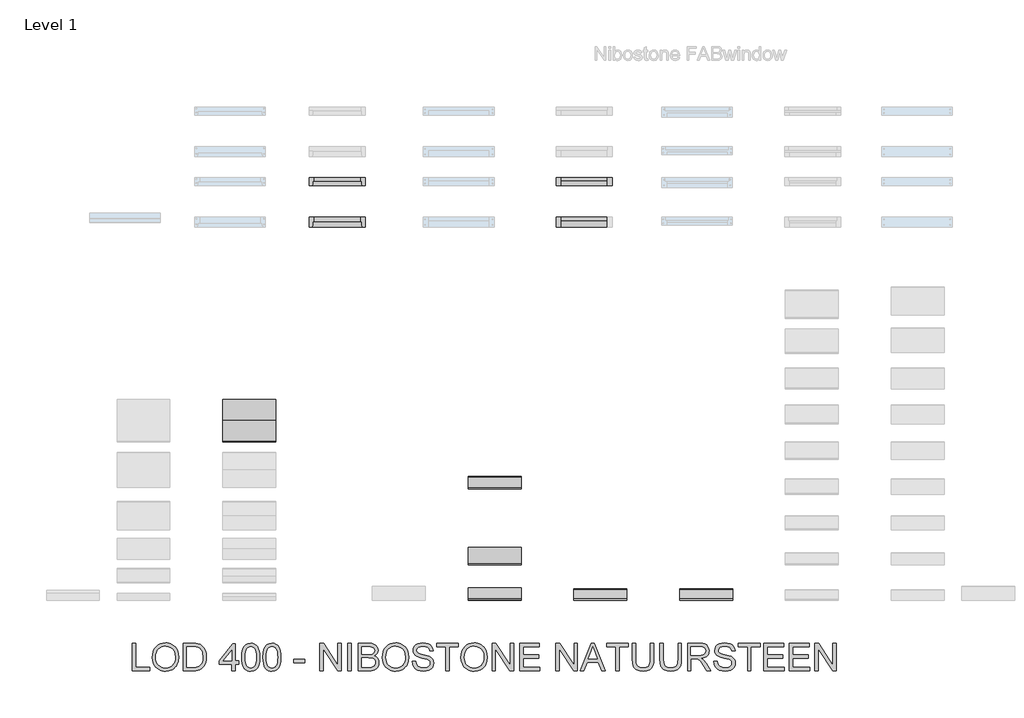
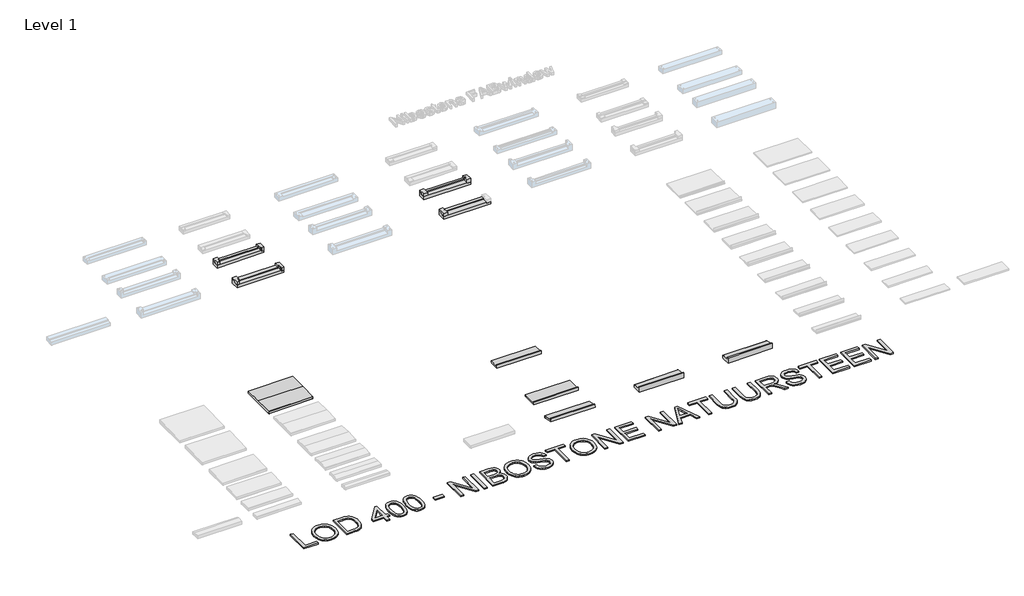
# One storey, part 2 of 4: 18 proxies.
"""IFC4 building model written with IfcOpenShell, lengths in millimetres."""

from ifc_helpers import new_model, si_unit, origin, origin_with_axes, place, context, project, spatial, polyline, outline, extrude, faceted_brep, transform, mapped, element, save
from components import proxy_160x90_mm_a9168e1c, proxy_175_mm_b3279f06, proxy_250_mm_d05ddaf7, proxy_600_mm_a40602a3, std_403fbab1, std_eb05143a

model = new_model("IFC4")

# Units and contexts
model_context = context("Model", 3, world=origin())
ifc_project = project(units=[si_unit("LENGTHUNIT", "METRE", prefix="MILLI")], contexts=[model_context])

# Site, building, storey
site = spatial("IfcSite", under=ifc_project)
building = spatial("IfcBuilding", under=site)
storey = spatial("IfcBuildingStorey", under=building, Name="Level 1", Elevation=0.0)

# Proxies
placement = place(None, origin())
proxy_160x90_mm_shape = proxy_160x90_mm_a9168e1c(model_context)
element("IfcBuildingElementProxy", 1, Name="400_35_NS_raamdorpel_160x90 : 160x90 mm", ObjectType="400_35_NS_raamdorpel_160x90 : 160x90 mm", at=placement, inside=storey, context=model_context, shape_type="MappedRepresentation", body=[
    mapped(proxy_160x90_mm_shape, transform((13878.8137943, 10001.8708366, 0.0), x_axis=(1.0, 0.0, 0.0), y_axis=(0.0, 1.0, 0.0), z_axis=(0.0, 0.0, 1.0))),
])
proxy_175_mm_shape = proxy_175_mm_b3279f06(model_context)
element("IfcBuildingElementProxy", 2, Name="400_35_NS_raamdorpel_natuursteen_klik : 175 mm", ObjectType="400_35_NS_raamdorpel_natuursteen_klik : 175 mm", at=placement, inside=storey, context=model_context, shape_type="MappedRepresentation", body=[
    mapped(proxy_175_mm_shape, transform((12378.8137943, 10001.8708366, 0.0), x_axis=(1.0, 0.0, 0.0), y_axis=(0.0, 1.0, 0.0), z_axis=(0.0, 0.0, 1.0))),
])
proxy_250_mm_shape = proxy_250_mm_d05ddaf7(model_context)
element("IfcBuildingElementProxy", 3, Name="400_35_NS_raamdorpel_natuursteen_klik : 250 mm", ObjectType="400_35_NS_raamdorpel_natuursteen_klik : 250 mm", at=placement, inside=storey, context=model_context, shape_type="MappedRepresentation", body=[
    mapped(proxy_250_mm_shape, transform((12378.8137943, 10501.8708366, 0.0), x_axis=(1.0, 0.0, 0.0), y_axis=(0.0, 1.0, 0.0), z_axis=(0.0, 0.0, 1.0))),
])
element("IfcBuildingElementProxy", 4, Name="400", ObjectType="400", at=placement, inside=storey, context=model_context, shape_type="SweptSolid", body=[
    extrude(outline(polyline([(7242.8484848, 9000.0), (7242.8484848, 9391.7575758), (7291.8181818, 9391.7575758), (7291.8181818, 9048.969697), (7487.6969697, 9048.969697), (7487.6969697, 9000.0), (7242.8484848, 9000.0)])), origin_with_axes(), (0.0, 0.0, 1.0), 20.0),
    extrude(outline(polyline([(7524.4242424, 9190.7140152), (7527.6880919, 9236.6649503), (7537.4796402, 9277.3435133), (7553.7988873, 9312.7497041), (7576.6458333, 9342.8835227), (7604.6515743, 9366.9439512), (7636.4472064, 9384.1299716), (7672.0327296, 9394.4415838), (7711.4081439, 9397.8787879), (7737.764027, 9396.2647964), (7762.7928504, 9391.422822), (7786.4946141, 9383.3528646), (7808.8693182, 9372.0549242), (7829.2892992, 9357.8697325), (7847.1268939, 9341.1380208), (7862.3821023, 9321.8597893), (7875.0549242, 9300.0350379), (7885.0138494, 9276.1599195), (7892.1273674, 9250.7305871), (7897.8181818, 9195.2092803), (7891.8284801, 9138.946733), (7884.341353, 9113.1647135), (7873.859375, 9088.9488636), (7860.6306226, 9066.9388021), (7844.9031723, 9047.7741477), (7826.6770241, 9031.4549006), (7805.952178, 9017.9810606), (7760.2702415, 8999.9043561), (7711.1212121, 8993.8787879), (7684.3050426, 8995.5435902), (7658.9474432, 9000.5379972), (7635.0484138, 9008.8620088), (7612.6079545, 9020.515625), (7592.2118845, 9035.047526), (7574.4460227, 9052.006392), (7559.3103693, 9071.392223), (7546.8049242, 9093.2050189), (7530.0194129, 9140.6085464), (7524.4242424, 9190.7140152)]), holes=[polyline([(7573.3939394, 9190.2357955), (7575.8418265, 9157.7706558), (7583.1854877, 9128.9519413), (7595.4249231, 9103.779652), (7612.5601326, 9082.2537879), (7633.3895893, 9065.0139678), (7656.7117661, 9052.6998106), (7682.5266631, 9045.3113163), (7710.8342803, 9042.8484848), (7739.6260949, 9045.3352273), (7765.745857, 9052.7954545), (7789.1935665, 9065.2291667), (7809.9692235, 9082.6363636), (7826.9789003, 9104.6165365), (7839.1286695, 9130.7691761), (7846.418531, 9161.0942827), (7848.8484848, 9195.5918561), (7844.6879735, 9238.9424716), (7832.2064394, 9276.4109848), (7811.7266809, 9307.0529119), (7783.5714962, 9329.9237689), (7749.6059422, 9344.1627604), (7711.6950758, 9348.9090909), (7684.3707978, 9346.622603), (7659.0191761, 9339.7631392), (7635.6402107, 9328.3306996), (7614.2339015, 9312.3252841), (7596.3664181, 9290.9757635), (7583.6039299, 9263.5110085), (7575.946437, 9229.9310192), (7573.3939394, 9190.2357955)])]), origin_with_axes(), (0.0, 0.0, 1.0), 20.0),
    extrude(outline(polyline([(7965.1515152, 9000.0), (7965.1515152, 9391.7575758), (8100.2964015, 9391.7575758), (8140.6820549, 9390.3468277), (8170.2121212, 9386.1145833), (8201.4398674, 9375.2350852), (8227.7897727, 9358.0909091), (8254.8809186, 9328.25), (8274.1770833, 9291.1401515), (8285.726089, 9247.4786932), (8289.5757576, 9197.9829545), (8286.9694602, 9155.9354877), (8279.1505682, 9118.9332386), (8267.2428977, 9087.4305161), (8252.3702652, 9061.8816288), (8235.25, 9041.7127131), (8216.5994318, 9026.3499053), (8195.1871449, 9014.956321), (8169.7817235, 9006.6950758), (8140.3353456, 9001.6737689), (8106.8001894, 9000.0), (7965.1515152, 9000.0)]), holes=[polyline([(8014.1212121, 9048.969697), (8100.7746212, 9048.969697), (8136.6171875, 9050.7391098), (8163.8039773, 9056.0473485), (8184.3196023, 9064.5835701), (8200.1486742, 9076.0369318), (8217.16134, 9097.2340199), (8229.9417614, 9124.671875), (8237.9399858, 9158.4700521), (8240.6060606, 9198.7481061), (8235.3815104, 9252.1174242), (8228.8508227, 9273.5655777), (8219.7078598, 9291.5227273), (8196.550071, 9318.5899621), (8168.8731061, 9334.9450758), (8140.7059659, 9340.827178), (8099.4356061, 9342.7878788), (8014.1212121, 9342.7878788), (8014.1212121, 9048.969697)])]), origin_with_axes(), (0.0, 0.0, 1.0), 20.0),
    extrude(outline(polyline([(8650.7272727, 9000.0), (8650.7272727, 9091.8181818), (8473.2121212, 9091.8181818), (8473.2121212, 9140.7878788), (8662.969697, 9385.6363636), (8699.6969697, 9385.6363636), (8699.6969697, 9140.7878788), (8748.6666667, 9140.7878788), (8748.6666667, 9091.8181818), (8699.6969697, 9091.8181818), (8699.6969697, 9000.0), (8650.7272727, 9000.0)]), holes=[polyline([(8650.7272727, 9140.7878788), (8650.7272727, 9292.0965909), (8533.467803, 9140.7878788), (8650.7272727, 9140.7878788)])]), origin_with_axes(), (0.0, 0.0, 1.0), 20.0),
    extrude(outline(polyline([(8791.5151515, 9192.7225379), (8795.1137547, 9255.4290956), (8805.9095644, 9305.4389205), (8823.7949811, 9343.5171638), (8835.3559422, 9358.3688743), (8848.6624053, 9370.4289773), (8863.7592034, 9379.7602391), (8880.6911695, 9386.4254261), (8920.0606061, 9391.7575758), (8950.2362689, 9388.6013258), (8977.2556818, 9379.1325758), (8999.8515625, 9363.721946), (9016.7566288, 9342.7400568), (9029.5250947, 9316.3662405), (9039.7111742, 9284.7798295), (9046.382339, 9244.6691525), (9048.6060606, 9192.7225379), (9045.0433239, 9130.3746449), (9034.3551136, 9080.484375), (9016.5772964, 9042.3702652), (9005.0432351, 9027.4737216), (8991.7457386, 9015.3508523), (8976.6310073, 9005.9568241), (8959.6452415, 8999.246804), (8920.0606061, 8993.8787879), (8893.0890152, 8996.2101089), (8869.1780303, 9003.204072), (8848.3276515, 9014.8606771), (8830.5378788, 9031.1799242), (8813.4654356, 9060.6801018), (8801.2708333, 9097.4372633), (8793.954072, 9141.4514086), (8791.5151515, 9192.7225379)]), holes=[polyline([(8840.4848485, 9192.8181818), (8841.9195076, 9150.2476622), (8846.2234848, 9115.7889441), (8853.3967803, 9089.4420277), (8863.4393939, 9071.2069129), (8875.5861742, 9058.8001006), (8889.0719697, 9049.9380919), (8903.8967803, 9044.6208866), (8920.0606061, 9042.8484848), (8936.2244318, 9044.6268643), (8951.0492424, 9049.9620028), (8964.5350379, 9058.8539003), (8976.6818182, 9071.3025568), (8986.7244318, 9089.5675604), (8993.8977273, 9115.9084991), (8998.2017045, 9150.3253729), (8999.6363636, 9192.8181818), (8998.2495265, 9234.2618963), (8994.0890152, 9268.1138731), (8987.1548295, 9294.3741122), (8977.4469697, 9313.0426136), (8965.5034328, 9326.0561671), (8951.8622159, 9335.3515625), (8936.5233191, 9340.9287997), (8919.4867424, 9342.7878788), (8903.4066051, 9341.1499763), (8888.8328598, 9336.2362689), (8875.7655066, 9328.0467566), (8864.2045455, 9316.5814394), (8853.827178, 9296.2571023), (8846.4147727, 9268.8551136), (8841.9673295, 9234.3754735), (8840.4848485, 9192.8181818)])]), origin_with_axes(), (0.0, 0.0, 1.0), 20.0),
    extrude(outline(polyline([(9091.4545455, 9192.7225379), (9095.0531487, 9255.4290956), (9105.8489583, 9305.4389205), (9123.734375, 9343.5171638), (9135.2953362, 9358.3688743), (9148.6017992, 9370.4289773), (9163.6985973, 9379.7602391), (9180.6305634, 9386.4254261), (9220.0, 9391.7575758), (9250.1756629, 9388.6013258), (9277.1950758, 9379.1325758), (9299.7909564, 9363.721946), (9316.6960227, 9342.7400568), (9329.4644886, 9316.3662405), (9339.6505682, 9284.7798295), (9346.321733, 9244.6691525), (9348.5454545, 9192.7225379), (9344.9827178, 9130.3746449), (9334.2945076, 9080.484375), (9316.5166903, 9042.3702652), (9304.982629, 9027.4737216), (9291.6851326, 9015.3508523), (9276.5704013, 9005.9568241), (9259.5846354, 8999.246804), (9220.0, 8993.8787879), (9193.0284091, 8996.2101089), (9169.1174242, 9003.204072), (9148.2670455, 9014.8606771), (9130.4772727, 9031.1799242), (9113.4048295, 9060.6801018), (9101.2102273, 9097.4372633), (9093.8934659, 9141.4514086), (9091.4545455, 9192.7225379)]), holes=[polyline([(9140.4242424, 9192.8181818), (9141.8589015, 9150.2476622), (9146.1628788, 9115.7889441), (9153.3361742, 9089.4420277), (9163.3787879, 9071.2069129), (9175.5255682, 9058.8001006), (9189.0113636, 9049.9380919), (9203.8361742, 9044.6208866), (9220.0, 9042.8484848), (9236.1638258, 9044.6268643), (9250.9886364, 9049.9620028), (9264.4744318, 9058.8539003), (9276.6212121, 9071.3025568), (9286.6638258, 9089.5675604), (9293.8371212, 9115.9084991), (9298.1410985, 9150.3253729), (9299.5757576, 9192.8181818), (9298.1889205, 9234.2618963), (9294.0284091, 9268.1138731), (9287.0942235, 9294.3741122), (9277.3863636, 9313.0426136), (9265.4428267, 9326.0561671), (9251.8016098, 9335.3515625), (9236.4627131, 9340.9287997), (9219.4261364, 9342.7878788), (9203.3459991, 9341.1499763), (9188.7722538, 9336.2362689), (9175.7049006, 9328.0467566), (9164.1439394, 9316.5814394), (9153.766572, 9296.2571023), (9146.3541667, 9268.8551136), (9141.9067235, 9234.3754735), (9140.4242424, 9192.8181818)])]), origin_with_axes(), (0.0, 0.0, 1.0), 20.0),
    extrude(outline(polyline([(9532.1818182, 9116.3030303), (9532.1818182, 9165.2727273), (9685.2121212, 9165.2727273), (9685.2121212, 9116.3030303), (9532.1818182, 9116.3030303)])), origin_with_axes(), (0.0, 0.0, 1.0), 20.0),
    extrude(outline(polyline([(9899.4545455, 9000.0), (9899.4545455, 9391.7575758), (9951.8674242, 9391.7575758), (10156.5454545, 9081.3929924), (10156.5454545, 9391.7575758), (10205.5151515, 9391.7575758), (10205.5151515, 9000.0), (10153.1022727, 9000.0), (9948.4242424, 9310.4602273), (9948.4242424, 9000.0), (9899.4545455, 9000.0)])), origin_with_axes(), (0.0, 0.0, 1.0), 20.0),
    extrude(outline(polyline([(10297.3333333, 9000.0), (10297.3333333, 9391.7575758), (10346.3030303, 9391.7575758), (10346.3030303, 9000.0), (10297.3333333, 9000.0)])), origin_with_axes(), (0.0, 0.0, 1.0), 20.0),
    extrude(outline(polyline([(10444.2424242, 9000.0), (10444.2424242, 9391.7575758), (10593.7339015, 9391.7575758), (10634.84884, 9388.8763021), (10666.9493371, 9380.2324811), (10691.5537405, 9365.6109138), (10710.1803977, 9344.7964015), (10721.9087358, 9320.311553), (10725.8181818, 9294.6789773), (10722.5304214, 9271.0907907), (10712.6671402, 9248.9133523), (10696.1566051, 9229.5095881), (10672.9270833, 9214.2424242), (10700.6757813, 9199.7523674), (10721.1794508, 9177.7064394), (10733.8403172, 9149.5632102), (10738.0606061, 9116.78125), (10735.1793324, 9089.4629498), (10726.5355114, 9064.1292614), (10713.635535, 9042.585464), (10697.9857955, 9026.6368371), (10678.8211411, 9015.0878314), (10655.3764205, 9006.7428977), (10626.886482, 9001.6857244), (10592.5861742, 9000.0), (10444.2424242, 9000.0)]), holes=[polyline([(10493.2121212, 9232.6060606), (10582.6392045, 9232.6060606), (10634.8607955, 9236.8143939), (10653.1407434, 9244.0713778), (10666.2798295, 9254.9389205), (10674.206321, 9269.2496449), (10676.8484848, 9286.8361742), (10674.3856534, 9303.9086174), (10666.9971591, 9318.78125), (10655.0177557, 9330.3900331), (10638.782197, 9337.670928), (10613.8669508, 9341.5086411), (10575.8484848, 9342.7878788), (10493.2121212, 9342.7878788), (10493.2121212, 9232.6060606)]), polyline([(10493.2121212, 9048.969697), (10593.6382576, 9048.969697), (10629.9829545, 9050.8825758), (10660.7324811, 9061.546875), (10672.0184659, 9070.7406487), (10681.1046402, 9083.3058712), (10687.0943419, 9098.6806345), (10689.0909091, 9116.3030303), (10686.7476326, 9136.7708333), (10679.717803, 9154.3693182), (10667.4395123, 9168.13009), (10649.3508523, 9177.0847538), (10623.730232, 9181.9984612), (10588.8560606, 9183.6363636), (10493.2121212, 9183.6363636), (10493.2121212, 9048.969697)])]), origin_with_axes(), (0.0, 0.0, 1.0), 20.0),
    extrude(outline(polyline([(10787.030303, 9190.7140152), (10790.2941525, 9236.6649503), (10800.0857008, 9277.3435133), (10816.4049479, 9312.7497041), (10839.2518939, 9342.8835227), (10867.2576349, 9366.9439512), (10899.053267, 9384.1299716), (10934.6387902, 9394.4415838), (10974.0142045, 9397.8787879), (11000.3700876, 9396.2647964), (11025.398911, 9391.422822), (11049.1006747, 9383.3528646), (11071.4753788, 9372.0549242), (11091.8953598, 9357.8697325), (11109.7329545, 9341.1380208), (11124.9881629, 9321.8597893), (11137.6609848, 9300.0350379), (11147.61991, 9276.1599195), (11154.733428, 9250.7305871), (11160.4242424, 9195.2092803), (11154.4345407, 9138.946733), (11146.9474136, 9113.1647135), (11136.4654356, 9088.9488636), (11123.2366832, 9066.9388021), (11107.509233, 9047.7741477), (11089.2830848, 9031.4549006), (11068.5582386, 9017.9810606), (11022.8763021, 8999.9043561), (10973.7272727, 8993.8787879), (10946.9111032, 8995.5435902), (10921.5535038, 9000.5379972), (10897.6544744, 9008.8620088), (10875.2140152, 9020.515625), (10854.8179451, 9035.047526), (10837.0520833, 9052.006392), (10821.9164299, 9071.392223), (10809.4109848, 9093.2050189), (10792.6254735, 9140.6085464), (10787.030303, 9190.7140152)]), holes=[polyline([(10836.0, 9190.2357955), (10838.4478871, 9157.7706558), (10845.7915483, 9128.9519413), (10858.0309837, 9103.779652), (10875.1661932, 9082.2537879), (10895.9956499, 9065.0139678), (10919.3178267, 9052.6998106), (10945.1327237, 9045.3113163), (10973.4403409, 9042.8484848), (11002.2321555, 9045.3352273), (11028.3519176, 9052.7954545), (11051.7996271, 9065.2291667), (11072.5752841, 9082.6363636), (11089.5849609, 9104.6165365), (11101.7347301, 9130.7691761), (11109.0245916, 9161.0942827), (11111.4545455, 9195.5918561), (11107.2940341, 9238.9424716), (11094.8125, 9276.4109848), (11074.3327415, 9307.0529119), (11046.1775568, 9329.9237689), (11012.2120028, 9344.1627604), (10974.3011364, 9348.9090909), (10946.9768584, 9346.622603), (10921.6252367, 9339.7631392), (10898.2462713, 9328.3306996), (10876.8399621, 9312.3252841), (10858.9724787, 9290.9757635), (10846.2099905, 9263.5110085), (10838.5524976, 9229.9310192), (10836.0, 9190.2357955)])]), origin_with_axes(), (0.0, 0.0, 1.0), 20.0),
    extrude(outline(polyline([(11209.3939394, 9134.6666667), (11258.3636364, 9134.6666667), (11263.9827178, 9107.4918324), (11274.1448864, 9085.6491477), (11289.9978693, 9068.3136837), (11312.6893939, 9054.6605114), (11340.4261364, 9045.8014915), (11371.4147727, 9042.8484848), (11398.6972064, 9045.0841619), (11422.5842803, 9051.7911932), (11441.9402225, 9062.4076705), (11455.6292614, 9076.3716856), (11463.7709517, 9092.4040009), (11466.4848485, 9109.2253788), (11464.4524148, 9125.6163589), (11458.3551136, 9139.7836174), (11445.9692235, 9151.8706203), (11425.0710227, 9162.0208333), (11353.7684659, 9180.7192235), (11306.9627131, 9193.0931581), (11277.0142045, 9204.8693182), (11252.6369555, 9221.3439867), (11235.3612689, 9241.3096591), (11225.06759, 9264.3359375), (11221.6363636, 9289.9924242), (11225.8805634, 9318.6736506), (11238.6131629, 9345.4180871), (11259.4994081, 9368.0857008), (11288.2045455, 9384.5364583), (11322.6602746, 9394.5432055), (11360.7982955, 9397.8787879), (11402.1164773, 9394.3877841), (11438.2698864, 9383.9147727), (11467.9673295, 9366.6749527), (11489.9176136, 9342.8835227), (11503.8098958, 9314.022964), (11509.3333333, 9281.5757576), (11460.3636364, 9281.5757576), (11451.3731061, 9310.7949811), (11432.6268939, 9331.8844697), (11403.3359375, 9344.6529356), (11362.7111742, 9348.9090909), (11321.1299716, 9344.7007576), (11305.2351444, 9339.4403409), (11292.6041667, 9332.0757576), (11276.1055871, 9313.4969223), (11270.6060606, 9291.4270833), (11274.5035511, 9272.6091383), (11286.1960227, 9257.4734848), (11313.8371212, 9243.9398674), (11366.1543561, 9230.1193182), (11420.1453598, 9216.9921875), (11452.8077652, 9205.5388258), (11480.72384, 9187.772964), (11500.1993371, 9165.8465909), (11511.6407434, 9139.9988163), (11515.4545455, 9110.46875), (11511.0668797, 9080.2811316), (11497.9038826, 9051.8868371), (11476.5035511, 9027.4498106), (11447.4038826, 9009.1339962), (11412.4101563, 8997.69259), (11373.3276515, 8993.8787879), (11325.3502604, 8997.9914773), (11285.8612689, 9010.3295455), (11254.4063684, 9030.9408144), (11230.53125, 9059.8731061), (11215.2043087, 9095.1178977), (11209.3939394, 9134.6666667)])), origin_with_axes(), (0.0, 0.0, 1.0), 20.0),
    extrude(outline(polyline([(11686.8484848, 9000.0), (11686.8484848, 9342.7878788), (11558.3030303, 9342.7878788), (11558.3030303, 9391.7575758), (11864.3636364, 9391.7575758), (11864.3636364, 9342.7878788), (11735.8181818, 9342.7878788), (11735.8181818, 9000.0), (11686.8484848, 9000.0)])), origin_with_axes(), (0.0, 0.0, 1.0), 20.0),
    extrude(outline(polyline([(11901.0909091, 9190.7140152), (11904.3547585, 9236.6649503), (11914.1463068, 9277.3435133), (11930.465554, 9312.7497041), (11953.3125, 9342.8835227), (11981.318241, 9366.9439512), (12013.1138731, 9384.1299716), (12048.6993963, 9394.4415838), (12088.0748106, 9397.8787879), (12114.4306937, 9396.2647964), (12139.459517, 9391.422822), (12163.1612808, 9383.3528646), (12185.5359848, 9372.0549242), (12205.9559659, 9357.8697325), (12223.7935606, 9341.1380208), (12239.0487689, 9321.8597893), (12251.7215909, 9300.0350379), (12261.6805161, 9276.1599195), (12268.7940341, 9250.7305871), (12274.4848485, 9195.2092803), (12268.4951468, 9138.946733), (12261.0080196, 9113.1647135), (12250.5260417, 9088.9488636), (12237.2972893, 9066.9388021), (12221.569839, 9047.7741477), (12203.3436908, 9031.4549006), (12182.6188447, 9017.9810606), (12136.9369081, 8999.9043561), (12087.7878788, 8993.8787879), (12060.9717093, 8995.5435902), (12035.6141098, 9000.5379972), (12011.7150805, 9008.8620088), (11989.2746212, 9020.515625), (11968.8785511, 9035.047526), (11951.1126894, 9052.006392), (11935.977036, 9071.392223), (11923.4715909, 9093.2050189), (11906.6860795, 9140.6085464), (11901.0909091, 9190.7140152)]), holes=[polyline([(11950.0606061, 9190.2357955), (11952.5084931, 9157.7706558), (11959.8521544, 9128.9519413), (11972.0915897, 9103.779652), (11989.2267992, 9082.2537879), (12010.0562559, 9065.0139678), (12033.3784328, 9052.6998106), (12059.1933298, 9045.3113163), (12087.500947, 9042.8484848), (12116.2927616, 9045.3352273), (12142.4125237, 9052.7954545), (12165.8602332, 9065.2291667), (12186.6358902, 9082.6363636), (12203.645567, 9104.6165365), (12215.7953362, 9130.7691761), (12223.0851977, 9161.0942827), (12225.5151515, 9195.5918561), (12221.3546402, 9238.9424716), (12208.8731061, 9276.4109848), (12188.3933475, 9307.0529119), (12160.2381629, 9329.9237689), (12126.2726089, 9344.1627604), (12088.3617424, 9348.9090909), (12061.0374645, 9346.622603), (12035.6858428, 9339.7631392), (12012.3068774, 9328.3306996), (11990.9005682, 9312.3252841), (11973.0330848, 9290.9757635), (11960.2705966, 9263.5110085), (11952.6131037, 9229.9310192), (11950.0606061, 9190.2357955)])]), origin_with_axes(), (0.0, 0.0, 1.0), 20.0),
    extrude(outline(polyline([(12341.8181818, 9000.0), (12341.8181818, 9391.7575758), (12394.2310606, 9391.7575758), (12598.9090909, 9081.3929924), (12598.9090909, 9391.7575758), (12647.8787879, 9391.7575758), (12647.8787879, 9000.0), (12595.4659091, 9000.0), (12390.7878788, 9310.4602273), (12390.7878788, 9000.0), (12341.8181818, 9000.0)])), origin_with_axes(), (0.0, 0.0, 1.0), 20.0),
    extrude(outline(polyline([(12733.5757576, 9000.0), (12733.5757576, 9391.7575758), (13015.1515152, 9391.7575758), (13015.1515152, 9342.7878788), (12782.5454545, 9342.7878788), (12782.5454545, 9226.4848485), (13002.9090909, 9226.4848485), (13002.9090909, 9177.5151515), (12782.5454545, 9177.5151515), (12782.5454545, 9048.969697), (13021.2727273, 9048.969697), (13021.2727273, 9000.0), (12733.5757576, 9000.0)])), origin_with_axes(), (0.0, 0.0, 1.0), 20.0),
    extrude(outline(polyline([(13247.7575758, 9000.0), (13247.7575758, 9391.7575758), (13300.1704545, 9391.7575758), (13504.8484848, 9081.3929924), (13504.8484848, 9391.7575758), (13553.8181818, 9391.7575758), (13553.8181818, 9000.0), (13501.405303, 9000.0), (13296.7272727, 9310.4602273), (13296.7272727, 9000.0), (13247.7575758, 9000.0)])), origin_with_axes(), (0.0, 0.0, 1.0), 20.0),
    extrude(outline(polyline([(13593.8929924, 9000.0), (13750.2708333, 9391.7575758), (13791.9715909, 9391.7575758), (13948.3494318, 9000.0), (13896.6060606, 9000.0), (13851.749053, 9122.4242424), (13690.3977273, 9122.4242424), (13645.6363636, 9000.0), (13593.8929924, 9000.0)]), holes=[polyline([(13708.3787879, 9171.3939394), (13833.8636364, 9171.3939394), (13798.5710227, 9267.7073864), (13771.1212121, 9342.7878788), (13746.7320076, 9276.124053), (13708.3787879, 9171.3939394)])]), origin_with_axes(), (0.0, 0.0, 1.0), 20.0),
    extrude(outline(polyline([(14098.6060606, 9000.0), (14098.6060606, 9342.7878788), (13970.0606061, 9342.7878788), (13970.0606061, 9391.7575758), (14276.1212121, 9391.7575758), (14276.1212121, 9342.7878788), (14147.5757576, 9342.7878788), (14147.5757576, 9000.0), (14098.6060606, 9000.0)])), origin_with_axes(), (0.0, 0.0, 1.0), 20.0),
    extrude(outline(polyline([(14588.3030303, 9391.7575758), (14637.2727273, 9391.7575758), (14637.2727273, 9165.750947), (14633.9491004, 9112.823982), (14623.9782197, 9072.0677083), (14605.3515625, 9040.6247633), (14576.0606061, 9015.6377841), (14557.3980824, 9006.1182232), (14536.0336174, 8999.3185369), (14485.1988636, 8993.8787879), (14435.4759706, 8998.6131629), (14395.7239583, 9012.8162879), (14379.5840436, 9023.3460878), (14365.9308712, 9035.9979877), (14354.7644413, 9050.7719875), (14346.0847538, 9067.6680871), (14334.9302794, 9110.1459517), (14331.2121212, 9165.750947), (14331.2121212, 9391.7575758), (14380.1818182, 9391.7575758), (14380.1818182, 9167.4725379), (14382.5968277, 9123.4643703), (14389.8418561, 9092.8224432), (14402.9689867, 9071.6014441), (14423.030303, 9055.8560606), (14449.1889205, 9046.1003788), (14480.6079545, 9042.8484848), (14507.5974787, 9044.4564986), (14530.414536, 9049.2805398), (14549.0591264, 9057.3206084), (14563.53125, 9068.5767045), (14574.3689039, 9084.4057765), (14582.1100852, 9106.1647727), (14586.754794, 9133.8536932), (14588.3030303, 9167.4725379), (14588.3030303, 9391.7575758)])), origin_with_axes(), (0.0, 0.0, 1.0), 20.0),
    extrude(outline(polyline([(14980.0606061, 9391.7575758), (15029.030303, 9391.7575758), (15029.030303, 9165.750947), (15025.7066761, 9112.823982), (15015.7357955, 9072.0677083), (14997.1091383, 9040.6247633), (14967.8181818, 9015.6377841), (14949.1556581, 9006.1182232), (14927.7911932, 8999.3185369), (14876.9564394, 8993.8787879), (14827.2335464, 8998.6131629), (14787.4815341, 9012.8162879), (14771.3416193, 9023.3460878), (14757.688447, 9035.9979877), (14746.522017, 9050.7719875), (14737.8423295, 9067.6680871), (14726.6878551, 9110.1459517), (14722.969697, 9165.750947), (14722.969697, 9391.7575758), (14771.9393939, 9391.7575758), (14771.9393939, 9167.4725379), (14774.3544034, 9123.4643703), (14781.5994318, 9092.8224432), (14794.7265625, 9071.6014441), (14814.7878788, 9055.8560606), (14840.9464962, 9046.1003788), (14872.3655303, 9042.8484848), (14899.3550545, 9044.4564986), (14922.1721117, 9049.2805398), (14940.8167022, 9057.3206084), (14955.2888258, 9068.5767045), (14966.1264796, 9084.4057765), (14973.867661, 9106.1647727), (14978.5123698, 9133.8536932), (14980.0606061, 9167.4725379), (14980.0606061, 9391.7575758)])), origin_with_axes(), (0.0, 0.0, 1.0), 20.0),
    extrude(outline(polyline([(15114.7272727, 9000.0), (15114.7272727, 9391.7575758), (15283.5388258, 9391.7575758), (15328.9099195, 9389.1154119), (15361.9190341, 9381.1889205), (15386.0452178, 9366.5553977), (15404.7675189, 9343.7921402), (15416.7827888, 9315.5652225), (15420.7878788, 9284.5407197), (15419.1290542, 9264.4196259), (15414.1525805, 9245.9483902), (15405.8584576, 9229.1270123), (15394.2466856, 9213.9554924), (15379.1678208, 9200.9180279), (15360.4724195, 9190.4988163), (15338.1604818, 9182.6978575), (15312.2320076, 9177.5151515), (15340.0643939, 9156.5691288), (15379.7566288, 9106.1647727), (15445.0814394, 9000.0), (15388.1732955, 9000.0), (15337.1950758, 9081.2017045), (15300.3721591, 9134.9535985), (15286.6831203, 9150.6272491), (15274.5004735, 9160.3470644), (15251.2111742, 9169.6723485), (15222.8049242, 9171.3939394), (15163.6969697, 9171.3939394), (15163.6969697, 9000.0), (15114.7272727, 9000.0)]), holes=[polyline([(15163.6969697, 9220.3636364), (15273.3049242, 9220.3636364), (15304.7837358, 9222.0971828), (15329.2088068, 9227.297822), (15347.5963542, 9236.3122633), (15360.9625947, 9249.4872159), (15369.104285, 9265.4238873), (15371.8181818, 9282.7234848), (15366.6414536, 9306.6105587), (15351.1112689, 9325.8589015), (15339.2544093, 9333.2653291), (15324.3907434, 9338.5556345), (15285.6429924, 9342.7878788), (15163.6969697, 9342.7878788), (15163.6969697, 9220.3636364)])]), origin_with_axes(), (0.0, 0.0, 1.0), 20.0),
    extrude(outline(polyline([(15488.1212121, 9134.6666667), (15537.0909091, 9134.6666667), (15542.7099905, 9107.4918324), (15552.8721591, 9085.6491477), (15568.725142, 9068.3136837), (15591.4166667, 9054.6605114), (15619.1534091, 9045.8014915), (15650.1420455, 9042.8484848), (15677.4244792, 9045.0841619), (15701.311553, 9051.7911932), (15720.6674953, 9062.4076705), (15734.3565341, 9076.3716856), (15742.4982244, 9092.4040009), (15745.2121212, 9109.2253788), (15743.1796875, 9125.6163589), (15737.0823864, 9139.7836174), (15724.6964962, 9151.8706203), (15703.7982955, 9162.0208333), (15632.4957386, 9180.7192235), (15585.6899858, 9193.0931581), (15555.7414773, 9204.8693182), (15531.3642282, 9221.3439867), (15514.0885417, 9241.3096591), (15503.7948627, 9264.3359375), (15500.3636364, 9289.9924242), (15504.6078362, 9318.6736506), (15517.3404356, 9345.4180871), (15538.2266809, 9368.0857008), (15566.9318182, 9384.5364583), (15601.3875473, 9394.5432055), (15639.5255682, 9397.8787879), (15680.84375, 9394.3877841), (15716.9971591, 9383.9147727), (15746.6946023, 9366.6749527), (15768.6448864, 9342.8835227), (15782.5371686, 9314.022964), (15788.0606061, 9281.5757576), (15739.0909091, 9281.5757576), (15730.1003788, 9310.7949811), (15711.3541667, 9331.8844697), (15682.0632102, 9344.6529356), (15641.438447, 9348.9090909), (15599.8572443, 9344.7007576), (15583.9624171, 9339.4403409), (15571.3314394, 9332.0757576), (15554.8328598, 9313.4969223), (15549.3333333, 9291.4270833), (15553.2308239, 9272.6091383), (15564.9232955, 9257.4734848), (15592.5643939, 9243.9398674), (15644.8816288, 9230.1193182), (15698.8726326, 9216.9921875), (15731.5350379, 9205.5388258), (15759.4511127, 9187.772964), (15778.9266098, 9165.8465909), (15790.3680161, 9139.9988163), (15794.1818182, 9110.46875), (15789.7941525, 9080.2811316), (15776.6311553, 9051.8868371), (15755.2308239, 9027.4498106), (15726.1311553, 9009.1339962), (15691.137429, 8997.69259), (15652.0549242, 8993.8787879), (15604.0775331, 8997.9914773), (15564.5885417, 9010.3295455), (15533.1336411, 9030.9408144), (15509.2585227, 9059.8731061), (15493.9315814, 9095.1178977), (15488.1212121, 9134.6666667)])), origin_with_axes(), (0.0, 0.0, 1.0), 20.0),
    extrude(outline(polyline([(15965.5757576, 9000.0), (15965.5757576, 9342.7878788), (15837.030303, 9342.7878788), (15837.030303, 9391.7575758), (16143.0909091, 9391.7575758), (16143.0909091, 9342.7878788), (16014.5454545, 9342.7878788), (16014.5454545, 9000.0), (15965.5757576, 9000.0)])), origin_with_axes(), (0.0, 0.0, 1.0), 20.0),
    extrude(outline(polyline([(16198.1818182, 9000.0), (16198.1818182, 9391.7575758), (16479.7575758, 9391.7575758), (16479.7575758, 9342.7878788), (16247.1515152, 9342.7878788), (16247.1515152, 9226.4848485), (16467.5151515, 9226.4848485), (16467.5151515, 9177.5151515), (16247.1515152, 9177.5151515), (16247.1515152, 9048.969697), (16485.8787879, 9048.969697), (16485.8787879, 9000.0), (16198.1818182, 9000.0)])), origin_with_axes(), (0.0, 0.0, 1.0), 20.0),
    extrude(outline(polyline([(16559.3333333, 9000.0), (16559.3333333, 9391.7575758), (16840.9090909, 9391.7575758), (16840.9090909, 9342.7878788), (16608.3030303, 9342.7878788), (16608.3030303, 9226.4848485), (16828.6666667, 9226.4848485), (16828.6666667, 9177.5151515), (16608.3030303, 9177.5151515), (16608.3030303, 9048.969697), (16847.030303, 9048.969697), (16847.030303, 9000.0), (16559.3333333, 9000.0)])), origin_with_axes(), (0.0, 0.0, 1.0), 20.0),
    extrude(outline(polyline([(16920.4848485, 9000.0), (16920.4848485, 9391.7575758), (16972.8977273, 9391.7575758), (17177.5757576, 9081.3929924), (17177.5757576, 9391.7575758), (17226.5454545, 9391.7575758), (17226.5454545, 9000.0), (17174.1325758, 9000.0), (16969.4545455, 9310.4602273), (16969.4545455, 9000.0), (16920.4848485, 9000.0)])), origin_with_axes(), (0.0, 0.0, 1.0), 20.0),
])
proxy_600_mm_shape = proxy_600_mm_a40602a3(model_context)
element("IfcBuildingElementProxy", 5, Name="400_35_NS_afdekker_tweezijdig_afwaterend : 600 mm", ObjectType="400_35_NS_afdekker_tweezijdig_afwaterend : 600 mm", at=placement, inside=storey, context=model_context, shape_type="MappedRepresentation", body=[
    mapped(proxy_600_mm_shape, transform((8898.8137943, 12251.8708366, 0.0), x_axis=(1.0, 0.0, 0.0), y_axis=(0.0, 1.0, 0.0), z_axis=(0.0, 0.0, 1.0))),
])
element("IfcBuildingElementProxy", 6, Name="Nibostone : BI-51-114 VN", ObjectType="Nibostone : BI-51-114 VN", at=placement, inside=storey, context=model_context, shape_type="Brep", body=[
    faceted_brep([(13250.0, 16000.0, -26.0), (13250.0, 16000.0, 44.0), (13976.7366492, 16000.0, 44.0), (13976.7366492, 16000.0, 8.9806081), (14043.7366492, 16000.0, 8.9806081), (14043.7366492, 16000.0, -26.0), (13250.0, 15959.0, 44.0), (13250.0, 15959.0, 27.6985751), (13300.0, 15959.0, 27.6985751), (13976.7366492, 15959.0, 27.6985751), (13976.7366492, 15959.0, 44.0), (13317.0, 15959.0, 44.0), (13300.0, 15959.0, 44.0), (14043.7366492, 15886.0, -26.0), (13250.0, 15886.0, -26.0), (14043.7366492, 15964.8452752, 8.9806081), (14043.7366492, 15886.0, 8.9806081), (13976.7366492, 15949.0, 8.9806081), (13976.7366492, 15886.0, 8.9806081), (13976.7366492, 15965.0, 8.9806081), (13976.7366492, 15959.0, 8.9806081), (13993.7366492, 15959.0, 8.9806081), (13993.7366492, 15949.0, 8.9806081), (13976.7366492, 15886.0, 24.5113263), (13317.0, 15886.0, 24.5113263), (13250.0, 15886.0, 24.5113263), (13976.7366492, 15949.0, 27.2619657), (13993.7366492, 15949.0, 27.2619657), (13993.7366492, 15959.0, 27.6985751)], [[[0, 1, 2, 3, 4, 5]], [[6, 7, 8, 9, 10, 11, 12]], [[1, 6, 12, 11, 10, 2]], [[0, 5, 13, 14]], [[13, 5, 4, 15, 16]], [[17, 18, 16, 15, 19, 20, 21, 22]], [[14, 13, 16, 18, 23, 24, 25]], [[1, 0, 14, 25, 7, 6]], [[7, 25, 24, 23, 26, 27, 28, 9, 8]], [[19, 15, 4, 3]], [[22, 21, 28, 27]], [[17, 22, 27, 26]], [[21, 20, 9, 28]], [[18, 17, 26, 23]], [[20, 19, 3, 2, 10, 9]]]),
])
element("IfcBuildingElementProxy", 7, Name="Nibostone : BI-57-139 VN", ObjectType="Nibostone : BI-57-139 VN", at=placement, inside=storey, context=model_context, shape_type="Brep", body=[
    faceted_brep([(13250.0, 15440.0, -26.0), (13250.0, 15440.0, 44.0), (13976.7366492, 15440.0, 44.0), (13976.7366492, 15440.0, 8.9806081), (14043.7366492, 15440.0, 8.9806081), (14043.7366492, 15440.0, -26.0), (13250.0, 15393.0, 44.0), (13250.0, 15393.0, 27.4366094), (13300.0, 15393.0, 27.4366094), (13976.7366492, 15393.0, 27.4366094), (13976.7366492, 15393.0, 44.0), (13317.0, 15393.0, 44.0), (13300.0, 15393.0, 44.0), (14043.7366492, 15301.0, -26.0), (13250.0, 15301.0, -26.0), (14043.7366492, 15404.8452752, 8.9806081), (14043.7366492, 15301.0, 8.9806081), (13976.7366492, 15383.0, 8.9806081), (13976.7366492, 15301.0, 8.9806081), (13976.7366492, 15405.0, 8.9806081), (13976.7366492, 15393.0, 8.9806081), (13993.7366492, 15393.0, 8.9806081), (13993.7366492, 15383.0, 8.9806081), (13976.7366492, 15301.0, 23.4198027), (13317.0, 15301.0, 23.4198027), (13250.0, 15301.0, 23.4198027), (13976.7366492, 15383.0, 27.0), (13993.7366492, 15383.0, 27.0), (13993.7366492, 15393.0, 27.4366094)], [[[0, 1, 2, 3, 4, 5]], [[6, 7, 8, 9, 10, 11, 12]], [[1, 6, 12, 11, 10, 2]], [[0, 5, 13, 14]], [[13, 5, 4, 15, 16]], [[17, 18, 16, 15, 19, 20, 21, 22]], [[14, 13, 16, 18, 23, 24, 25]], [[1, 0, 14, 25, 7, 6]], [[7, 25, 24, 23, 26, 27, 28, 9, 8]], [[19, 15, 4, 3]], [[22, 21, 28, 27]], [[17, 22, 27, 26]], [[21, 20, 9, 28]], [[18, 17, 26, 23]], [[20, 19, 3, 2, 10, 9]]]),
])
element("IfcBuildingElementProxy", 8, Name="Nibostone : BU-67-114 VN", ObjectType="Nibostone : BU-67-114 VN", at=placement, inside=storey, context=model_context, shape_type="Brep", body=[
    faceted_brep([(9750.0, 16000.0, -26.0), (9750.0, 16000.0, 44.0), (10476.7366492, 16000.0, 44.0), (10476.7366492, 16000.0, 26.0), (10543.7366492, 16000.0, 26.0), (10543.7366492, 16000.0, -26.0), (9750.0, 15953.0, 44.0), (9750.0, 15953.0, 27.4366094), (9800.0, 15953.0, 27.4366094), (10476.7366492, 15953.0, 27.4366094), (10476.7366492, 15953.0, 44.0), (9800.0, 15953.0, 44.0), (10543.7366492, 15886.0, -26.0), (9750.0, 15886.0, -26.0), (10543.7366492, 15964.8452752, 26.0), (10543.7366492, 15964.8452752, 8.9806081), (10543.7366492, 15886.0, 8.9806081), (10502.7366492, 15902.9965833, 8.9806081), (10502.7366492, 15885.9965833, 8.9806081), (10476.7366492, 15965.0, 8.9806081), (10476.7366492, 15952.9965833, 8.9806081), (10493.7366492, 15952.9965833, 8.9806081), (10493.7366492, 15902.9965833, 8.9806081), (10502.7366492, 15886.0, 24.5113263), (9750.0, 15886.0, 24.5113263), (10502.7366492, 15902.9965833, 25.2534131), (10493.7366492, 15902.9965833, 25.2534131), (10493.7366492, 15953.0, 27.4366094), (10476.7366492, 15965.0, 26.0)], [[[0, 1, 2, 3, 4, 5]], [[6, 7, 8, 9, 10, 11]], [[1, 6, 11, 10, 2]], [[0, 5, 12, 13]], [[12, 5, 4, 14, 15, 16]], [[17, 18, 16, 15, 19, 20, 21, 22]], [[13, 12, 16, 18, 23, 24]], [[1, 0, 13, 24, 7, 6]], [[7, 24, 23, 25, 26, 27, 9, 8]], [[19, 15, 14, 28]], [[28, 14, 4, 3]], [[20, 19, 28, 3, 2, 10, 9]], [[18, 17, 25, 23]], [[17, 22, 26, 25]], [[22, 21, 27, 26]], [[21, 20, 9, 27]]]),
])
element("IfcBuildingElementProxy", 9, Name="Nibostone : BU-72-139 VN", ObjectType="Nibostone : BU-72-139 VN", at=placement, inside=storey, context=model_context, shape_type="Brep", body=[
    faceted_brep([(9750.0, 15440.0, -26.0), (9750.0, 15440.0, 44.0), (10476.7366492, 15440.0, 44.0), (10476.7366492, 15440.0, 26.0), (10543.7366492, 15440.0, 26.0), (10543.7366492, 15440.0, -26.0), (9750.0, 15373.0, 44.0), (9750.0, 15373.0, 26.5633906), (9800.0, 15373.0, 26.5633906), (10476.7366492, 15373.0, 26.5633906), (10476.7366492, 15373.0, 44.0), (9800.0, 15373.0, 44.0), (10543.7366492, 15301.0, -26.0), (9750.0, 15301.0, -26.0), (10543.7366492, 15404.8452752, 26.0), (10543.7366492, 15404.8452752, 8.9806081), (10543.7366492, 15301.0, 8.9806081), (10502.7366492, 15318.0, 8.9806081), (10502.7366492, 15301.0, 8.9806081), (10476.7366492, 15405.0, 8.9806081), (10476.7366492, 15372.9965833, 8.9806081), (10493.7366492, 15372.9965833, 8.9806081), (10493.7366492, 15318.0, 8.9806081), (10502.7366492, 15301.0, 23.4198027), (9791.0, 15301.0, 23.4198027), (9750.0, 15301.0, 23.4198027), (10502.7366492, 15318.0, 24.1620387), (10493.7366492, 15318.0, 24.1620387), (10493.7366492, 15373.0, 26.5633906), (10476.7366492, 15405.0, 26.0)], [[[0, 1, 2, 3, 4, 5]], [[6, 7, 8, 9, 10, 11]], [[1, 6, 11, 10, 2]], [[0, 5, 12, 13]], [[12, 5, 4, 14, 15, 16]], [[17, 18, 16, 15, 19, 20, 21, 22]], [[13, 12, 16, 18, 23, 24, 25]], [[1, 0, 13, 25, 7, 6]], [[7, 25, 24, 23, 26, 27, 28, 9, 8]], [[19, 15, 14, 29]], [[29, 14, 4, 3]], [[20, 19, 29, 3, 2, 10, 9]], [[22, 21, 28, 27]], [[21, 20, 9, 28]], [[18, 17, 26, 23]], [[17, 22, 27, 26]]]),
])
element("IfcBuildingElementProxy", 10, Name="BU-VH-NEUT-67-114 : std", ObjectType="BU-VH-NEUT-67-114 : std", at=placement, inside=storey, context=model_context, shape_type="Brep", body=[
    faceted_brep([(10543.7366492, 15964.8452752, 8.9806081), (10543.7366492, 15885.9965833, 8.9806081), (10502.7366492, 15885.9965833, 8.9806081), (10502.7366492, 15902.9965833, 8.9806081), (10493.7366492, 15902.9965833, 8.9806081), (10493.7366492, 15952.9965833, 8.9806081), (10476.7366492, 15952.9965833, 8.9806081), (10476.7366492, 15965.0, 8.9806081), (10476.7366492, 15965.0, 26.0), (10543.7366492, 15964.8452752, 26.0), (10476.7366492, 15999.9965833, 26.0), (10543.7366492, 15999.9965833, 26.0), (10476.7366492, 15999.9965833, 74.0), (10543.7366492, 15999.9965833, 74.0), (10476.7366492, 15952.9965833, 74.0), (10493.7366492, 15952.9965833, 74.0), (10493.7366492, 15902.9965833, 74.0), (10502.7366492, 15902.9965833, 74.0), (10502.7366492, 15885.9965833, 74.0), (10543.7366492, 15885.9965833, 74.0), (10476.7366492, 15952.9965833, 27.4366094), (10502.7366492, 15902.9965833, 25.2534131), (10493.7366492, 15902.9965833, 25.2534131), (10493.7366492, 15952.9965833, 27.4366094)], [[[0, 1, 2, 3, 4, 5, 6, 7]], [[0, 7, 8, 9]], [[9, 8, 10, 11]], [[11, 10, 12, 13]], [[13, 12, 14, 15, 16, 17, 18, 19]], [[1, 19, 18, 2]], [[8, 7, 6, 20, 14, 12, 10]], [[1, 0, 9, 11, 13, 19]], [[17, 21, 3, 2, 18]], [[3, 21, 17, 16, 22, 4]], [[4, 22, 16, 15, 23, 5]], [[5, 23, 15, 14, 20, 6]]]),
])
element("IfcBuildingElementProxy", 11, Name="BU-VH-NEUT-67-114 : std", ObjectType="BU-VH-NEUT-67-114 : std", at=placement, inside=storey, context=model_context, shape_type="Brep", body=[
    faceted_brep([(9750.0, 15953.0, 44.0), (9800.0, 15953.0, 44.0), (9800.0, 15953.0, 27.4364603), (9750.0, 15953.0, 27.4366094), (9750.0, 15999.9965833, 44.0), (9817.0, 15999.9965833, 44.0), (9817.0, 15952.9965833, 44.0), (9750.0, 15999.9965833, 74.0), (9817.0, 15999.9965833, 74.0), (9750.0, 15885.9965833, 74.0), (9791.0, 15885.9965833, 74.0), (9791.0, 15902.9965833, 74.0), (9800.0, 15902.9965833, 74.0), (9800.0, 15952.9965833, 74.0), (9817.0, 15952.9965833, 74.0), (9750.0, 15885.9965833, 24.5111771), (9791.0, 15885.9965833, 24.5111771), (9791.0, 15902.9965833, 25.2534131), (9800.0, 15902.9965833, 25.2534131)], [[[0, 1, 2, 3]], [[1, 0, 4, 5, 6]], [[7, 8, 5, 4]], [[8, 7, 9, 10, 11, 12, 13, 14]], [[10, 9, 15, 16]], [[8, 14, 6, 5]], [[9, 7, 4, 0, 3, 15]], [[11, 10, 16, 17]], [[12, 11, 17, 18]], [[13, 12, 18, 2, 1]], [[14, 13, 1, 6]], [[3, 2, 18, 17, 16, 15]]]),
])
element("IfcBuildingElementProxy", 12, Name="BU-VH-NEUT-72-139 : std", ObjectType="BU-VH-NEUT-72-139 : std", at=placement, inside=storey, context=model_context, shape_type="Brep", body=[
    faceted_brep([(10543.7366492, 15404.8452752, 8.9806081), (10543.7366492, 15301.0, 8.9806081), (10502.7366492, 15301.0, 8.9806081), (10502.7366492, 15318.0, 8.9806081), (10493.7366492, 15318.0, 8.9806081), (10493.7366492, 15372.9965833, 8.9806081), (10476.7366492, 15372.9965833, 8.9806081), (10476.7366492, 15405.0, 8.9806081), (10476.7366492, 15405.0, 26.0), (10543.7366492, 15404.8452752, 26.0), (10476.7366492, 15439.9965833, 26.0), (10543.7366492, 15439.9965833, 26.0), (10476.7366492, 15439.9965833, 74.0), (10543.7366492, 15439.9965833, 74.0), (10476.7366492, 15372.9965833, 74.0), (10493.7366492, 15372.9965833, 74.0), (10493.7366492, 15318.0, 74.0), (10502.7366492, 15318.0, 74.0), (10502.7366492, 15301.0, 74.0), (10543.7366492, 15301.0, 74.0), (10502.7366492, 15301.0, 23.4198027), (10476.7366492, 15372.9965833, 26.5633906), (10502.7366492, 15318.0, 24.1620387), (10493.7366492, 15318.0, 24.1620387), (10493.7366492, 15372.9965833, 26.5633906)], [[[0, 1, 2, 3, 4, 5, 6, 7]], [[0, 7, 8, 9]], [[9, 8, 10, 11]], [[11, 10, 12, 13]], [[13, 12, 14, 15, 16, 17, 18, 19]], [[1, 19, 18, 20, 2]], [[8, 7, 6, 21, 14, 12, 10]], [[1, 0, 9, 11, 13, 19]], [[17, 22, 3, 2, 20, 18]], [[3, 22, 17, 16, 23, 4]], [[4, 23, 16, 15, 24, 5]], [[5, 24, 15, 14, 21, 6]]]),
])
element("IfcBuildingElementProxy", 13, Name="BU-VH-NEUT-72-139 : std", ObjectType="BU-VH-NEUT-72-139 : std", at=placement, inside=storey, context=model_context, shape_type="Brep", body=[
    faceted_brep([(9750.0, 15373.0, 44.0), (9800.0, 15373.0, 44.0), (9800.0, 15373.0, 26.5632414), (9750.0, 15373.0, 26.5633906), (9750.0, 15439.9965833, 44.0), (9817.0, 15439.9965833, 44.0), (9817.0, 15372.9965833, 44.0), (9750.0, 15439.9965833, 74.0), (9817.0, 15439.9965833, 74.0), (9750.0, 15301.0, 74.0), (9791.0, 15301.0, 74.0), (9791.0, 15318.0, 74.0), (9800.0, 15318.0, 74.0), (9800.0, 15372.9965833, 74.0), (9817.0, 15372.9965833, 74.0), (9750.0, 15301.0, 23.4198027), (9791.0, 15301.0, 23.4198027), (9791.0, 15318.0, 24.1620387), (9800.0, 15318.0, 24.1620387)], [[[0, 1, 2, 3]], [[1, 0, 4, 5, 6]], [[7, 8, 5, 4]], [[8, 7, 9, 10, 11, 12, 13, 14]], [[10, 9, 15, 16]], [[8, 14, 6, 5]], [[9, 7, 4, 0, 3, 15]], [[11, 10, 16, 17]], [[12, 11, 17, 18]], [[13, 12, 18, 2, 1]], [[14, 13, 1, 6]], [[3, 2, 18, 17, 16, 15]]]),
])
element("IfcBuildingElementProxy", 14, Name="BI-VH-NEUT-51-114 : std", ObjectType="BI-VH-NEUT-51-114 : std", at=placement, inside=storey, context=model_context, shape_type="Brep", body=[
    faceted_brep([(14043.7366492, 15964.8452752, 8.9806081), (14043.7366492, 15886.0, 8.9806081), (13976.7366492, 15886.0, 8.9806081), (13976.7366492, 15949.0, 8.9806081), (13993.7366492, 15949.0, 8.9806081), (13993.7366492, 15959.0, 8.9806081), (13976.7366492, 15959.0, 8.9806081), (13976.7366492, 15965.0, 8.9806081), (13993.7366492, 15949.0, 74.0), (13993.7366492, 15949.0, 27.2619657), (13976.7366492, 15949.0, 27.2619657), (13976.7366492, 15949.0, 74.0), (13993.7366492, 15959.0, 27.6985751), (13993.7366492, 15959.0, 74.0), (13976.7366492, 15959.0, 74.0), (13976.7366492, 15959.0, 44.0), (13976.7366492, 15959.0, 27.6985751), (13976.7366492, 15999.9965833, 8.9806081), (14043.7366492, 15999.9965833, 8.9806081), (13976.7366492, 15999.9965833, 74.0), (14043.7366492, 15999.9965833, 74.0), (13976.7366492, 15886.0, 74.0), (14043.7366492, 15886.0, 74.0), (13976.7366492, 15886.0, 24.5113263)], [[[0, 1, 2, 3, 4, 5, 6, 7]], [[8, 9, 4, 3, 10, 11]], [[5, 12, 13, 14, 15, 16, 6]], [[0, 7, 17, 18]], [[18, 17, 19, 20]], [[20, 19, 14, 13, 8, 11, 21, 22]], [[2, 1, 22, 21, 23]], [[4, 9, 8, 13, 12, 5]], [[17, 7, 6, 16, 15, 14, 19]], [[2, 23, 21, 11, 10, 3]], [[1, 0, 18, 20, 22]]]),
])
element("IfcBuildingElementProxy", 15, Name="BI-VH-NEUT-51-114 : std", ObjectType="BI-VH-NEUT-51-114 : std", at=placement, inside=storey, context=model_context, shape_type="Brep", body=[
    faceted_brep([(13300.0, 15949.0, 74.0), (13317.0, 15949.0, 74.0), (13317.0, 15949.0, 27.2619657), (13300.0, 15949.0, 27.2619657), (13317.0, 15959.0, 74.0), (13300.0, 15959.0, 74.0), (13300.0, 15959.0, 44.0), (13317.0, 15959.0, 44.0), (13250.0, 15959.0, 44.0), (13300.0, 15959.0, 27.6985751), (13250.0, 15959.0, 27.6985751), (13250.0, 15999.9965833, 44.0), (13317.0, 15999.9965833, 44.0), (13250.0, 15999.9965833, 74.0), (13317.0, 15999.9965833, 74.0), (13250.0, 15886.0, 74.0), (13317.0, 15886.0, 74.0), (13250.0, 15886.0, 24.5113263), (13317.0, 15886.0, 24.5113263)], [[[0, 1, 2, 3]], [[4, 5, 6, 7]], [[8, 6, 9, 10]], [[6, 8, 11, 12, 7]], [[13, 14, 12, 11]], [[14, 13, 15, 16, 1, 0, 5, 4]], [[16, 15, 17, 18]], [[5, 0, 3, 9, 6]], [[10, 9, 3, 2, 18, 17]], [[1, 16, 18, 2]], [[15, 13, 11, 8, 10, 17]], [[14, 4, 7, 12]]]),
])
element("IfcBuildingElementProxy", 16, Name="BI-VH-NEUT-57-139 : std", ObjectType="BI-VH-NEUT-57-139 : std", at=placement, inside=storey, context=model_context, shape_type="Brep", body=[
    faceted_brep([(13300.0, 15383.0, 74.0), (13317.0, 15383.0, 74.0), (13317.0, 15383.0, 27.0), (13300.0, 15383.0, 27.0), (13317.0, 15393.0, 74.0), (13300.0, 15393.0, 74.0), (13300.0, 15393.0, 44.0), (13317.0, 15393.0, 44.0), (13250.0, 15393.0, 44.0), (13300.0, 15393.0, 27.4366094), (13250.0, 15393.0, 27.4366094), (13250.0, 15439.9965833, 44.0), (13317.0, 15439.9965833, 44.0), (13250.0, 15439.9965833, 74.0), (13317.0, 15439.9965833, 74.0), (13250.0, 15301.0, 74.0), (13317.0, 15301.0, 74.0), (13250.0, 15301.0, 23.4198027), (13317.0, 15301.0, 23.4198027)], [[[0, 1, 2, 3]], [[4, 5, 6, 7]], [[8, 6, 9, 10]], [[6, 8, 11, 12, 7]], [[13, 14, 12, 11]], [[14, 13, 15, 16, 1, 0, 5, 4]], [[16, 15, 17, 18]], [[5, 0, 3, 9, 6]], [[10, 9, 3, 2, 18, 17]], [[1, 16, 18, 2]], [[15, 13, 11, 8, 10, 17]], [[14, 4, 7, 12]]]),
])
std_shape = std_403fbab1(model_context)
element("IfcBuildingElementProxy", 17, Name="400_35_NS_raamdorpel_geprofileerd_natuursteen_klik : std", ObjectType="400_35_NS_raamdorpel_geprofileerd_natuursteen_klik : std", at=placement, inside=storey, context=model_context, shape_type="MappedRepresentation", body=[
    mapped(std_shape, transform((15378.8137943, 10001.8708366, 0.0), x_axis=(1.0, 0.0, 0.0), y_axis=(0.0, 1.0, 0.0), z_axis=(0.0, 0.0, 1.0))),
])
std_2_shape = std_eb05143a(model_context)
element("IfcBuildingElementProxy", 18, Name="400_35_NS_raamdorpel_natuursteen_klik_variabel : std", ObjectType="400_35_NS_raamdorpel_natuursteen_klik_variabel : std", at=placement, inside=storey, context=model_context, shape_type="MappedRepresentation", body=[
    mapped(std_2_shape, transform((12378.8137943, 11581.8708366, 0.0), x_axis=(1.0, 0.0, 0.0), y_axis=(0.0, 1.0, 0.0), z_axis=(0.0, 0.0, 1.0))),
])

save(model, "model.ifc")
